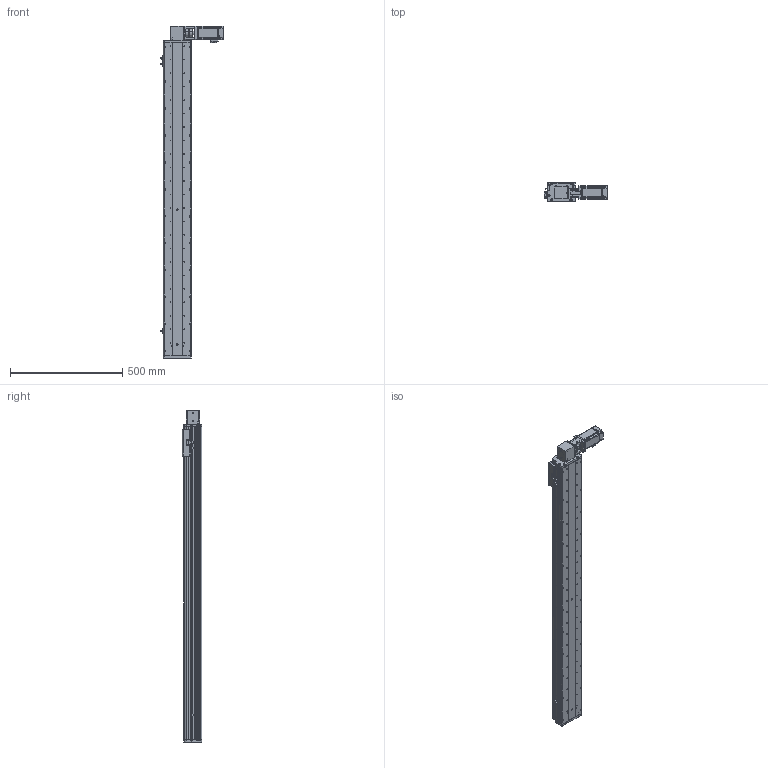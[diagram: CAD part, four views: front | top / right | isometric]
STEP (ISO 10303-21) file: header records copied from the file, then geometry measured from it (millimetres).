
FILE_DESCRIPTION (( 'STEP AP214' ), '1' );
FILE_NAME ('KSD125B-S1200-MRT-CM.STEP', '2017-10-21T07:07:36', ( '微软用户' ), ( '微软中国' ), 'SwSTEP 2.0', 'SolidWorks 2014', '' );
FILE_SCHEMA (( 'AUTOMOTIVE_DESIGN' ));
Length unit declared in the file: millimetre
Products named in the file (16): 100宽安装板同步带带电机座400W,86; 前端板-125宽模组同步带; 125模组同步带-尾端板1; KSD125模组同步带-滑动座1; KSD125B-S1200-MRT-CM; 100宽马达安装板同步带左; KSD125模组1200行程同步带-防尘盖; 125模组1200行程同步带-底板; MHMD042G1CA_2_03; KSD125模组同步带-防撞垫2; CS-34X32-10X14; 100遵鎮湛假蚾啣1 ; 覜茼え68遵圉猾敕; U倰嫖萇假蚾璃; U倰嫖萇EEㄜSX672; KSD125模组同步带-防撞垫1
Assembly tree (19 placements, depth 2):
  KSD125B-S1200-MRT-CM
    KSD125模组同步带-滑动座1
    125模组同步带-尾端板1
    前端板-125宽模组同步带
    100宽安装板同步带带电机座400W,86
    KSD125模组同步带-防撞垫1
    U倰嫖萇EEㄜSX672  x3
    U倰嫖萇假蚾璃  x3
    覜茼え68遵圉猾敕
    100遵鎮湛假蚾啣1 
    CS-34X32-10X14
    KSD125模组同步带-防撞垫2
    MHMD042G1CA_2_03
    125模组1200行程同步带-底板
    KSD125模组1200行程同步带-防尘盖
    100宽马达安装板同步带左
Bounding box: 282.7 x 86 x 1477 mm (x, y, z)
Volume: 4442677 mm3; surface area: 1456439.3 mm2
Topology: 18 solids, 21 shells, 1750 faces, 5026 edges, 3316 vertices
Faces by surface type: cylinder 937, plane 710, cone 81, bspline 22
Entity records: 61926 total; most frequent: CARTESIAN_POINT 12476, DIRECTION 9077, ORIENTED_EDGE 8572, EDGE_CURVE 4364, AXIS2_PLACEMENT_3D 3393, VERTEX_POINT 2908, VECTOR 2291, LINE 2291
